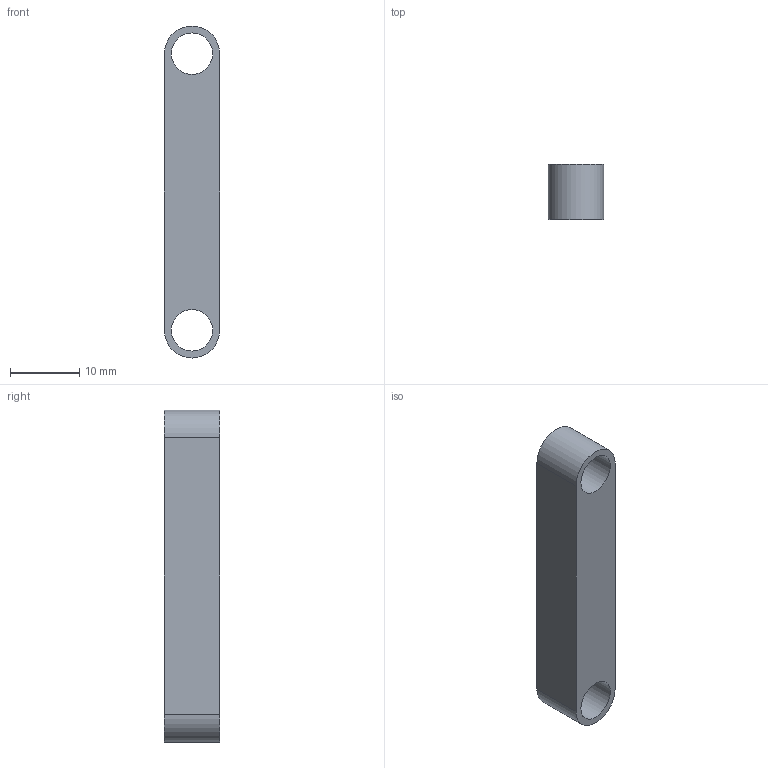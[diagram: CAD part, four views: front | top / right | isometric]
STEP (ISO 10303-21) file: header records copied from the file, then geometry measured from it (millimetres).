
FILE_DESCRIPTION(('STEP AP242'), '1');
FILE_NAME('Øàòóí', '', ('UNSPECIFIED'), ('UNSPECIFIED'), 'C3D Converter', 'C3D Toolkit', '');
FILE_SCHEMA(('AP242_MANAGED_MODEL_BASED_3D_ENGINEERING_MIM_LF { 1 0 10303 442 1 1 4 }'));
Length unit declared in the file: millimetre
Bounding box: 8 x 8 x 48 mm (x, y, z)
Volume: 2509.7 mm3; surface area: 1770.1 mm2
Topology: 1 solids, 1 shells, 8 faces, 18 edges, 12 vertices
Faces by surface type: plane 4, cylinder 4
Full cylindrical faces by diameter (mm): 6 x2
Entity records: 268 total; most frequent: DIRECTION 42, CARTESIAN_POINT 37, ORIENTED_EDGE 32, AXIS2_PLACEMENT_3D 17, EDGE_CURVE 16, EDGE_LOOP 14, VERTEX_POINT 12, FACE_BOUND 10
